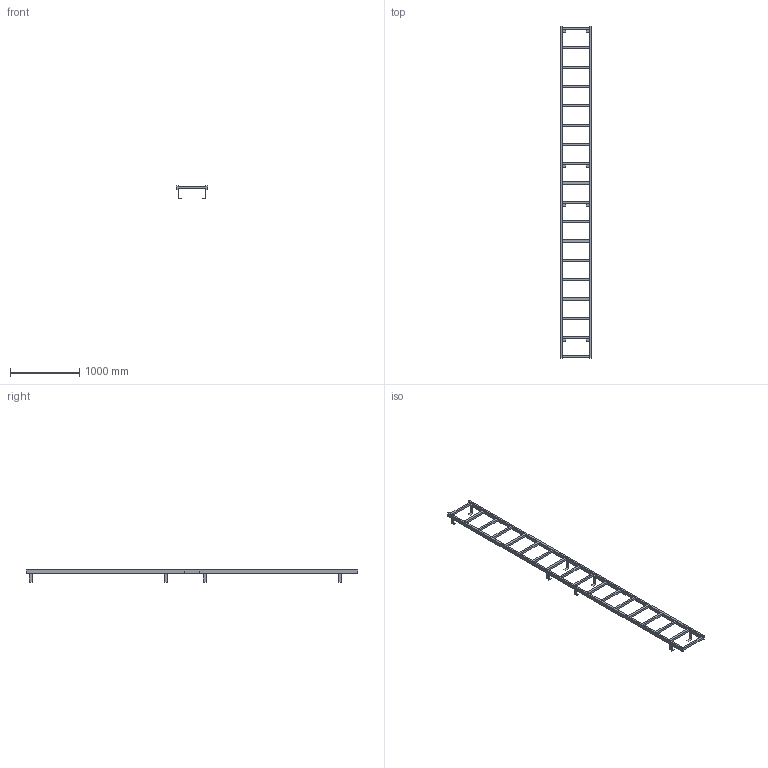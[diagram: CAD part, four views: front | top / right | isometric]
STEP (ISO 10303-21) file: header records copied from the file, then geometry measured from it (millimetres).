
FILE_DESCRIPTION((''),'2;1');
FILE_NAME('52311169','2024-10-17T13:35:47',('wep'),('HUBER SE'),'CREO PARAMETRIC BY PTC INC, 2022162','CREO PARAMETRIC BY PTC INC, 2022162','');
FILE_SCHEMA(('AUTOMOTIVE_DESIGN { 1 0 10303 214 1 1 1 1 }'));
Length unit declared in the file: millimetre
Products named in the file (1): 52311169
Bounding box: 450 x 4810 x 178.5 mm (x, y, z)
Volume: 20317850 mm3; surface area: 2545290.4 mm2
Topology: 4 solids, 4 shells, 168 faces, 480 edges, 312 vertices
Faces by surface type: plane 168
Entity records: 5959 total; most frequent: CARTESIAN_POINT 962, ORIENTED_EDGE 960, DIRECTION 816, VECTOR 480, LINE 480, EDGE_CURVE 480, VERTEX_POINT 312, EDGE_LOOP 192
